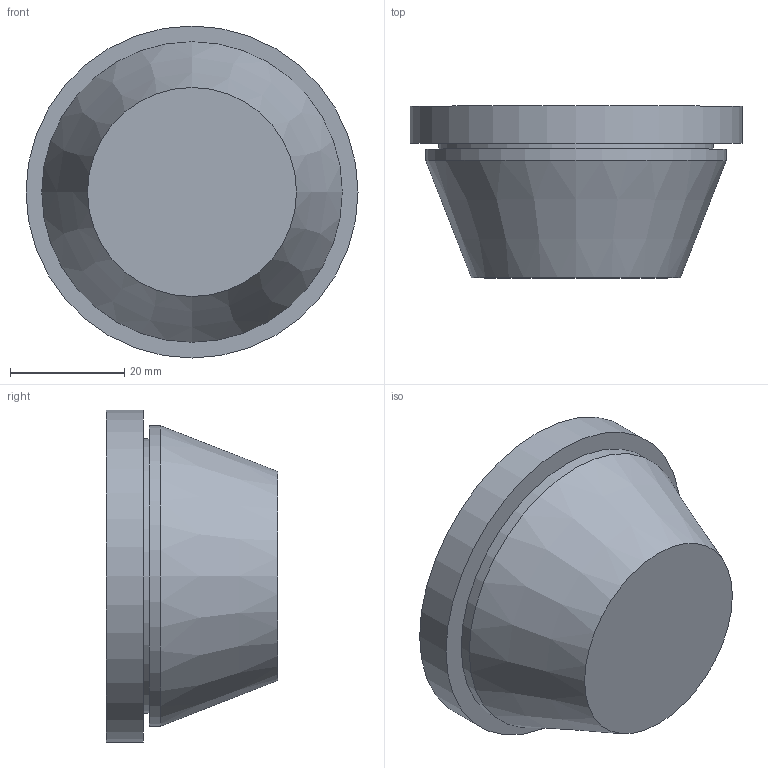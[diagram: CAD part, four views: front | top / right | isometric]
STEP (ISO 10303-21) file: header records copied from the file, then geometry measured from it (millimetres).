
FILE_DESCRIPTION( ( 'STEP AP214' ), '1' );
FILE_NAME( 'p:/temp/worker_14/temp/exporttempdir_3076_787_P1kAl/format_0/100710B_VET 26-35.stp', '2021-05-11T08:33:21', ( 'License CC BY-ND 4.0' ), ( 'CADENAS' ), ' ', 'PARTsolutions', ' ' );
FILE_SCHEMA( ( 'AUTOMOTIVE_DESIGN { 1 0 10303 214 1 1 1 1 }' ) );
Length unit declared in the file: millimetre
Products named in the file (1): _100710B_VET 26-35
Bounding box: 58 x 30 x 58 mm (x, y, z)
Volume: 55540.7 mm3; surface area: 9617.7 mm2
Topology: 1 solids, 1 shells, 8 faces, 11 edges, 7 vertices
Faces by surface type: plane 4, cylinder 3, cone 1
Full cylindrical faces by diameter (mm): 48 x1, 52.5 x1, 58 x1
Entity records: 234 total; most frequent: DIRECTION 32, CARTESIAN_POINT 23, AXIS2_PLACEMENT_3D 16, EDGE_LOOP 14, ORIENTED_EDGE 14, FACE_OUTER_BOUND 11, STYLED_ITEM 8, PRESENTATION_STYLE_ASSIGNMENT 8
